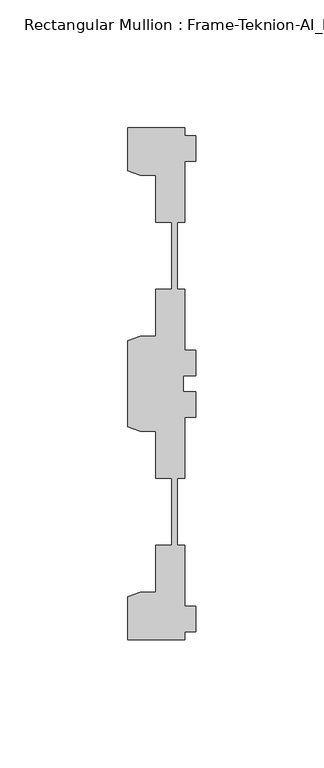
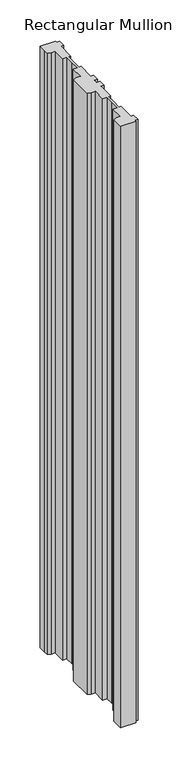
"""IFC4 building model written with IfcOpenShell, lengths in millimetres: member geometry, Rectangular Mullion : Frame-Teknion-AI_Healthcare-Ceiling_Double_Channel."""

from ifc_helpers import new_model, si_unit, frame, origin, place, context, project, spatial, polyline, outline, extrude, source, transform, mapped, element, save


def rectangular_mullion_frame_teknion_ai_healthcare_ceiling_a6a34e65(model_context):
    return source(origin(), model_context, "Body", "SweptSolid", [
        extrude(outline(polyline([(-4.2672007, -100.0110586), (-26.4921999, -100.0110586), (-26.4921999, -83.20115), (-21.6625199, -81.4690854), (-15.6737764, -81.4690854), (-15.6737764, -63.0920594), (-9.4507761, -63.0920594), (-9.4507761, -47.8659877), (-9.4507761, -36.9300571), (-15.6737764, -36.9300571), (-15.6737764, -18.5530311), (-21.6357055, -18.5530311), (-26.4921999, -16.8113452), (-26.4921999, 16.8113452), (-21.6625199, 18.5434146), (-15.6737764, 18.5434146), (-15.6737764, 36.9204406), (-9.4507761, 36.9204406), (-9.4507761, 50.8315128), (-9.4507761, 63.0824429), (-15.6737764, 63.0824429), (-15.6737764, 81.4594689), (-21.6625199, 81.4594689), (-26.4921999, 83.1915336), (-26.4921999, 90.2224424), (-26.4921999, 100.0014421), (-4.2672007, 100.0014421), (-4.2672007, 96.9534451), (0.0, 96.9534451), (0.0, 86.9534377), (-4.2672007, 86.9534377), (-4.2672007, 63.0824429), (-7.1647766, 63.0824429), (-7.1647766, 50.7500324), (-7.1647766, 36.9204406), (-4.2672007, 36.9204406), (-4.2672007, 13.0494413), (0.0, 13.0494413), (0.0, 3.0494419), (-4.7752002, 3.0494419), (-4.7752002, 0.0), (-4.7752002, -3.0494419), (0.0, -3.0494419), (0.0, -13.0494413), (-4.2672007, -13.0494413), (-4.2672007, -36.9204406), (-7.1647766, -36.9204406), (-7.1647766, -48.9859882), (-7.1647766, -63.0824429), (-4.2672007, -63.0824429), (-4.2672007, -86.9534377), (0.0, -86.9534377), (0.0, -96.9534451), (-4.2672007, -96.9534451), (-4.2672007, -100.0110586)])), frame((0.0, 0.0, -911.8979397), z_axis=(0.0, 0.0, 1.0), x_axis=(1.0, 0.0, 0.0)), (0.0, 0.0, 1.0), 911.8979397),
    ])


if __name__ == "__main__":
    model = new_model("IFC4")
    model_context = context("Model", 3, world=origin())
    ifc_project = project(units=[si_unit("LENGTHUNIT", "METRE", prefix="MILLI")], contexts=[model_context])
    site = spatial("IfcSite", under=ifc_project)
    building = spatial("IfcBuilding", under=site)
    placement = place(None, origin())
    rectangular_mullion_frame_teknion_ai_healthcare_ceiling_shape = rectangular_mullion_frame_teknion_ai_healthcare_ceiling_a6a34e65(model_context)
    element("IfcMember", 1, ObjectType="Rectangular Mullion : Frame-Teknion-AI_Healthcare-Ceiling_Double_Channel", at=placement, inside=building, context=model_context, shape_type="MappedRepresentation", body=[
        mapped(rectangular_mullion_frame_teknion_ai_healthcare_ceiling_shape, transform((0.0, 0.0, 0.0), x_axis=(1.0, 0.0, 0.0), y_axis=(0.0, 1.0, 0.0), z_axis=(0.0, 0.0, 1.0))),
    ])
    save(model, "model.ifc")
